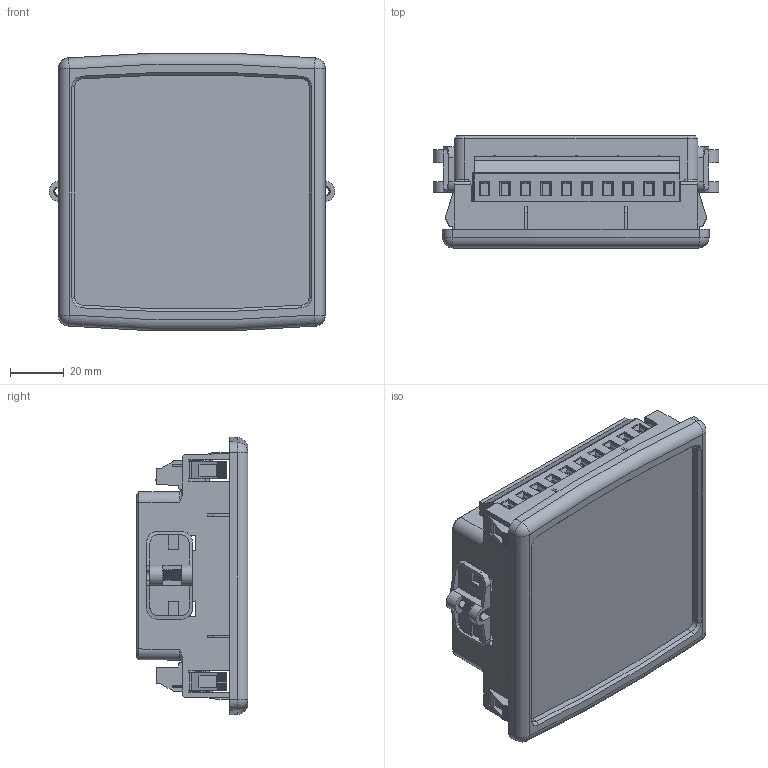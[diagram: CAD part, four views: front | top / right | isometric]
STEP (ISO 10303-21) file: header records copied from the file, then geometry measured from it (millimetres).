
FILE_DESCRIPTION(/* description */ (''),/* implementation_level */ '2;1');
FILE_NAME(/* name */ 'EMM-04e.stp',/* time_stamp */ '2026-09-24T15:01:17+03:00',/* author */ (''),/* organization */ (''),/* preprocessor_version */ 'ST-DEVELOPER v20.1',/* originating_system */ 'SIEMENS PLM Software NX2512.6002',/* authorisation */ '');
FILE_SCHEMA (('AP203_CONFIGURATION_CONTROLLED_3D_DESIGN_OF_MECHANICAL_PARTS_AND_ASSEMBLIES_MIM_LF { 1 0 10303 403 2 1 2}'));
Products named in the file (1): vaf_meter_objects
Bounding box: 106 x 41.53 x 102.95 mm (x, y, z)
Volume: 95200 mm3; surface area: 89933.7 mm2
Topology: 4 solids, 9 shells, 1659 faces, 4646 edges, 3038 vertices
Faces by surface type: plane 1051, cylinder 462, bspline 104, cone 17, torus 15, sphere 10
Full cylindrical faces by diameter (mm): 0.457 x7, 3.8 x13, 4 x13
Entity records: 78386 total; most frequent: CARTESIAN_POINT 30212, ORIENTED_EDGE 9184, DIRECTION 8113, EDGE_CURVE 4592, LINE 3237, VECTOR 3237, VERTEX_POINT 3024, AXIS2_PLACEMENT_3D 2438
